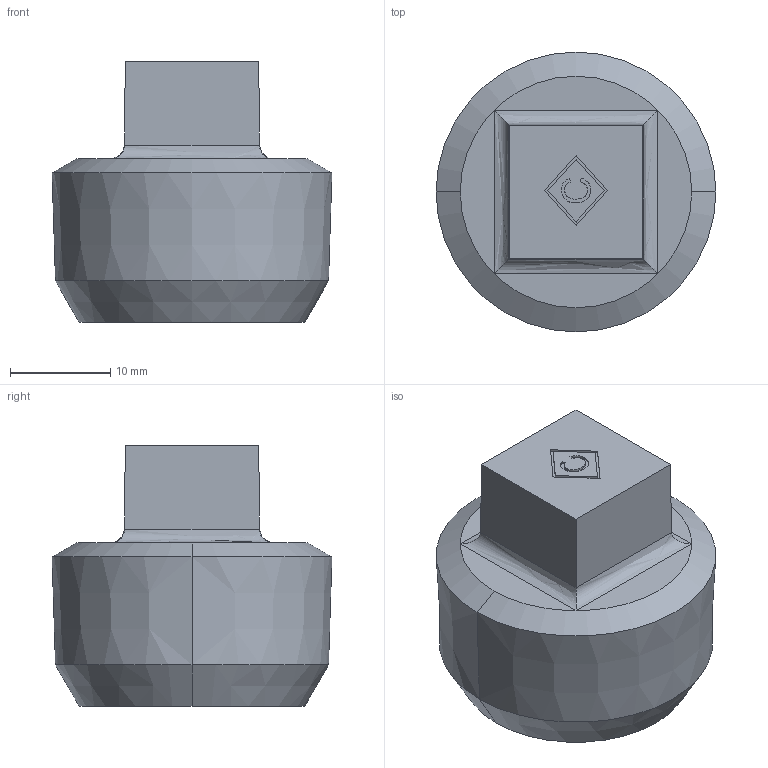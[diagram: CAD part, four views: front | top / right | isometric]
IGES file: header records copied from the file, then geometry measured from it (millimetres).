
Global section: file name: No Iges File Name specified; native system: AutoDesk Inventor R12.0; preprocessor: AutoDesk Inventor Iges Exporter R12.0; date: 20090914.164723; units: millimetre
Bounding box: 27.94 x 27.94 x 26 mm (x, y, z)
Volume: 8634.5 mm3; surface area: 3216.2 mm2
Topology: 1 solids, 1 shells, 44 faces, 107 edges, 68 vertices
Faces by surface type: plane 20, revolution 8, bspline 8, cone 6, torus 2
